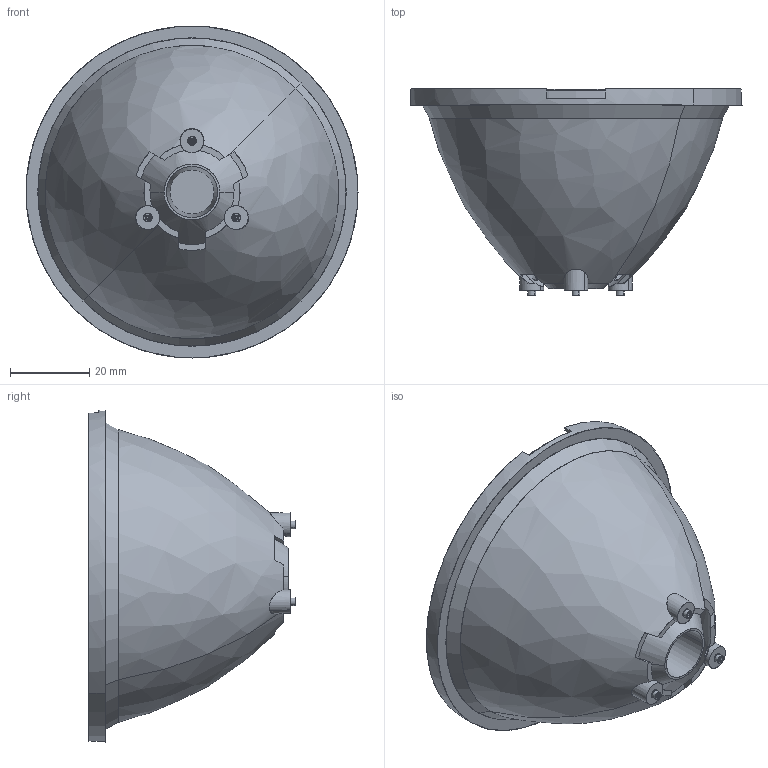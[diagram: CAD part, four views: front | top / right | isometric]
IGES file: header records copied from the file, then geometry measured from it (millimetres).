
Start section: SolidWorks IGES file using analytic representation for surfaces
Global section: file name: C:\P-Gold\Projects\Lenses\LuxPar_Lenses\05-LZC\2400-0083_COPY_Lens(8deg)\Application\LLNS-3T08-P3_RevA3.IGS; native system: SolidWorks 2011; preprocessor: SolidWorks 2011; author: dadebiyi; date: 120906.163154; units: millimetre
Bounding box: 84 x 52.17 x 84 mm (x, y, z)
Surface area: 40708 mm2 (no closed solid volume)
Topology: 0 solids, 0 shells, 213 faces, 3258 edges, 3258 vertices
Faces by surface type: revolution 123, bspline 90
